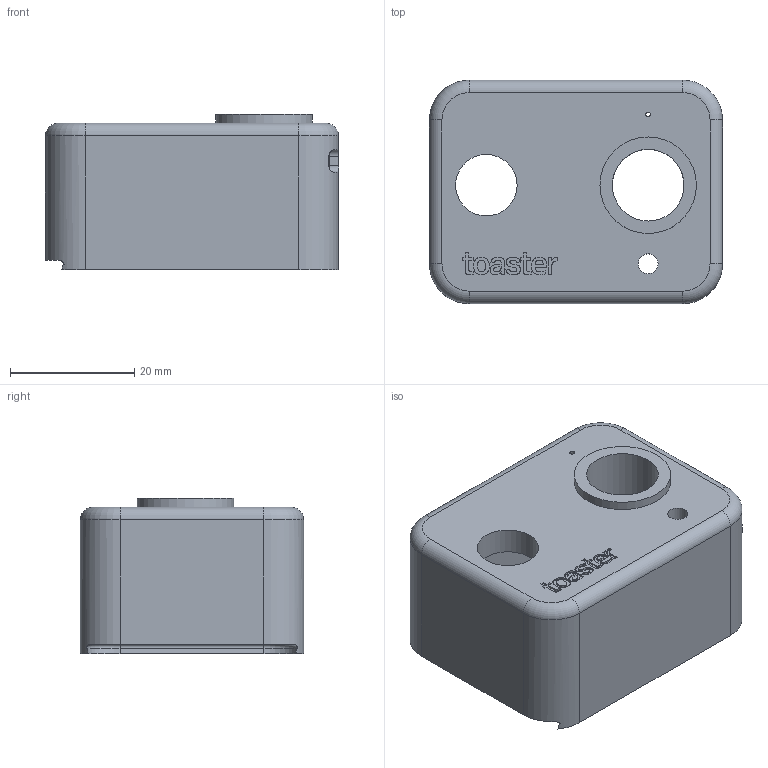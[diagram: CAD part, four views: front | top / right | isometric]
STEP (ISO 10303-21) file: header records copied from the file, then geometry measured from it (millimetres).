
FILE_DESCRIPTION(/* description */ (''),/* implementation_level */ '2;1');
FILE_NAME(/* name */ 'Front.step',/* time_stamp */ '2023-02-14T11:46:58-08:00',/* author */ (''),/* organization */ (''),/* preprocessor_version */ 'ST-DEVELOPER v19.2',/* originating_system */ 'Autodesk Translation Framework v11.17.0.187',/* authorisation */ '');
FILE_SCHEMA (('AUTOMOTIVE_DESIGN { 1 0 10303 214 3 1 1 }'));
Length unit declared in the file: millimetre
Products named in the file (1): Front
Bounding box: 47.16 x 35.95 x 25 mm (x, y, z)
Volume: 10763 mm3; surface area: 9984.3 mm2
Topology: 1 solids, 1 shells, 235 faces, 642 edges, 422 vertices
Faces by surface type: plane 101, bspline 82, cylinder 44, torus 6, cone 2
Full cylindrical faces by diameter (mm): 0.75 x1, 1.271 x3, 3.2 x1, 9.9 x1, 11.529 x1, 13.5 x1, 15.529 x1
Entity records: 7706 total; most frequent: CARTESIAN_POINT 2432, ORIENTED_EDGE 1284, DIRECTION 876, EDGE_CURVE 642, VERTEX_POINT 422, LINE 372, VECTOR 372, EDGE_LOOP 258
